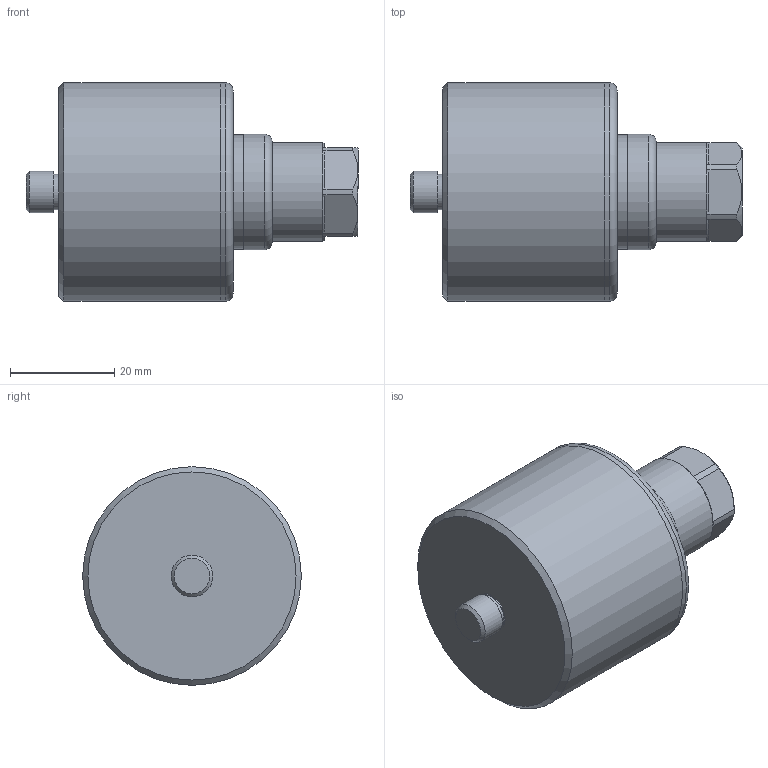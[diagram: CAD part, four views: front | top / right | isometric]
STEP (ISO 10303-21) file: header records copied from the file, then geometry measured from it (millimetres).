
FILE_DESCRIPTION(/* description */ (''),/* implementation_level */ '2;1');
FILE_NAME(/* name */ 'Z:\Engineering\Drawings\3D Library\Assemblies\Website\Triaxial Top\Premium\HS-173 Round PUR\HS-173RXXX0108.stp',/* time_stamp */ '2023-03-25T19:58:03+00:00',/* author */ ('Ricardo.Peneda'),/* organization */ (''),/* preprocessor_version */ 'ST-DEVELOPER v18.1',/* originating_system */ 'Autodesk Inventor 2021',/* authorisation */ '');
FILE_SCHEMA (('AUTOMOTIVE_DESIGN { 1 0 10303 214 3 1 1 }'));
Length unit declared in the file: inch
Products named in the file (1): HS-173RXXX0108_Shrinkwrap_1
Bounding box: 63.8 x 42 x 42 mm (x, y, z)
Volume: 50465.3 mm3; surface area: 13890 mm2
Topology: 5 solids, 5 shells, 77 faces, 188 edges, 135 vertices
Faces by surface type: plane 30, cylinder 29, cone 14, sphere 2, torus 2
Full cylindrical faces by diameter (mm): 5 x1, 5.359 x1, 6.35 x1, 6.8 x1, 7 x1, 7.5 x1, 8 x1, 9 x1, 12 x2, 14 x1, 15 x2, 18 x1, 19 x1, 19.95 x1, 20 x1, 22 x1, 22.2 x1, 40 x1, 42 x2
Entity records: 2484 total; most frequent: DIRECTION 454, CARTESIAN_POINT 423, ORIENTED_EDGE 372, AXIS2_PLACEMENT_3D 202, EDGE_CURVE 186, VERTEX_POINT 135, CIRCLE 124, EDGE_LOOP 99
